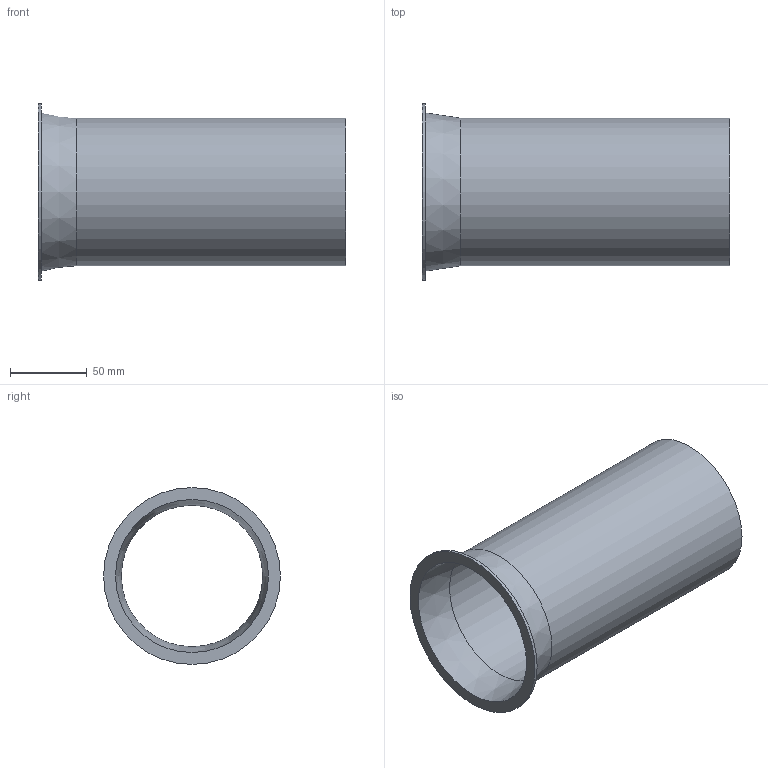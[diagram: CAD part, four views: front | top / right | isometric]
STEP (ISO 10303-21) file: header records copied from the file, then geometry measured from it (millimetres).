
FILE_DESCRIPTION((''),'2;1');
FILE_NAME('U:\Wolfgang\Marcel-3D\fertig\Kapitel 1\1011008.stp','2010-05-31T11:04:57',('TK2'),(''),'Autodesk Inventor 2010','Autodesk Inventor 2010','');
FILE_SCHEMA(('AUTOMOTIVE_DESIGN { 1 0 10303 214 1 1 1 1 }'));
Length unit declared in the file: millimetre
Products named in the file (1): 1011008
Bounding box: 200 x 115 x 115 mm (x, y, z)
Volume: 122904.7 mm3; surface area: 124206.9 mm2
Topology: 1 solids, 1 shells, 8 faces, 14 edges, 9 vertices
Faces by surface type: cylinder 3, plane 3, cone 2
Full cylindrical faces by diameter (mm): 92 x1, 96 x1, 115 x1
Entity records: 194 total; most frequent: DIRECTION 34, CARTESIAN_POINT 25, AXIS2_PLACEMENT_3D 17, ORIENTED_EDGE 16, EDGE_LOOP 16, VERTEX_POINT 8, CIRCLE 8, EDGE_CURVE 8
